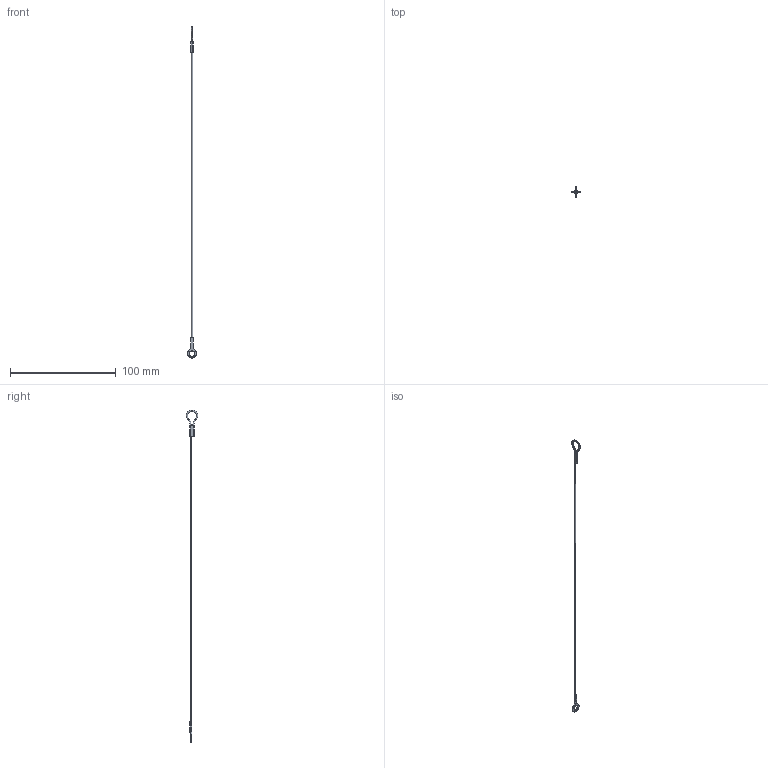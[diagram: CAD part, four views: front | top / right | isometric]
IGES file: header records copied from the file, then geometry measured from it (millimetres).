
Start section: SolidWorks IGES file using analytic representation for surfaces
Global section: file name: C:\Users\ianosborn\Desktop\LA1075_v2\LA1075_v2_20260320_IGES\LA1075.I04-304N1.igs; native system: SolidWorks 2019; preprocessor: SolidWorks 2019; author: IanOsborn; date: 260323.164309; units: millimetre
Bounding box: 8.37 x 10.76 x 314.38 mm (x, y, z)
Surface area: 1457.6 mm2 (no closed solid volume)
Topology: 0 solids, 0 shells, 30 faces, 389 edges, 389 vertices
Faces by surface type: bspline 20, revolution 10
